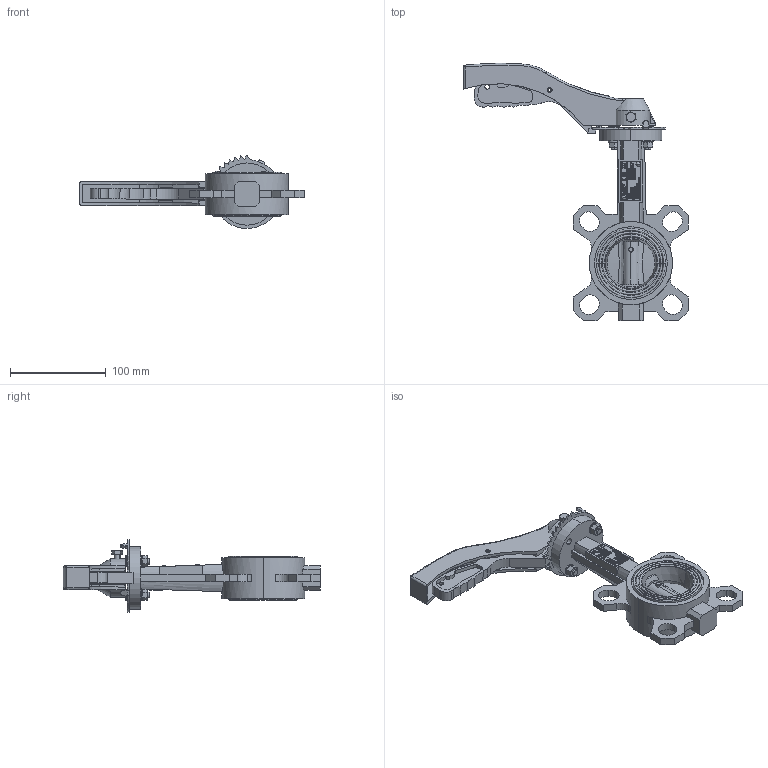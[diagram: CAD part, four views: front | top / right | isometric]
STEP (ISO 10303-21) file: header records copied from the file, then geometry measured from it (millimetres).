
FILE_DESCRIPTION (( 'STEP AP214' ), '1' );
FILE_NAME ('VPG444X-02XX0050-Défaut.step', '2022-05-19T16:20:36', ( '' ), ( '' ), 'SwSTEP 2.0', 'SolidWorks 2020', '' );
FILE_SCHEMA (( 'AUTOMOTIVE_DESIGN' ));
Length unit declared in the file: millimetre
Products named in the file (1): VPG444X-02XX0050-Défaut
Bounding box: 235.17 x 269.07 x 76.32 mm (x, y, z)
Surface area: 118434.9 mm2 (no closed solid volume)
Topology: 0 solids, 78 shells, 712 faces, 5265 edges, 4598 vertices
Faces by surface type: plane 436, cylinder 139, bspline 88, cone 44, torus 5
Entity records: 73822 total; most frequent: CARTESIAN_POINT 30206, ORIENTED_EDGE 6626, DIRECTION 5824, EDGE_CURVE 5261, VERTEX_POINT 4598, VECTOR 3546, LINE 3546, B_SPLINE_CURVE_WITH_KNOTS 1172
